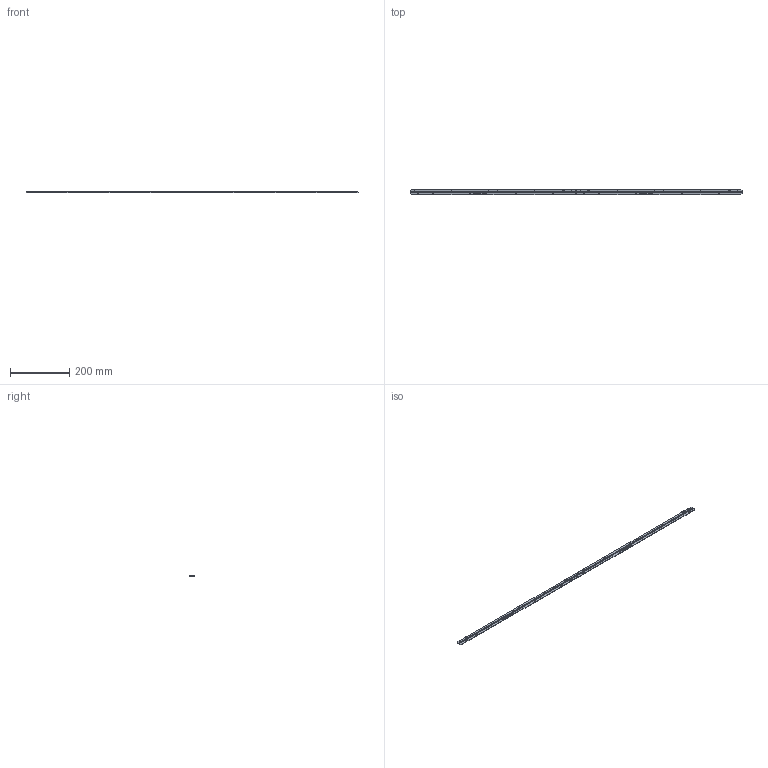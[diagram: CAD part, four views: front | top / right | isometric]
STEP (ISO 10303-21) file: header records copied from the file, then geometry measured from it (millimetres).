
FILE_DESCRIPTION(('Open CASCADE Model'),'2;1');
FILE_NAME('Open CASCADE Shape Model','2025-06-13T11:03:28',('Author'),( 'Open CASCADE'),'Open CASCADE STEP processor 6.8','Open CASCADE 6.8' ,'Unknown');
FILE_SCHEMA(('AUTOMOTIVE_DESIGN { 1 0 10303 214 1 1 1 1 }'));
Products named in the file (1): PCB
Bounding box: 1120 x 20 x 4.3 mm (x, y, z)
Volume: 36789.6 mm3; surface area: 54815.6 mm2
Topology: 223 solids, 223 shells, 3333 faces, 8773 edges, 5830 vertices
Faces by surface type: plane 2716, cylinder 617
Full cylindrical faces by diameter (mm): 0.8 x11
Entity records: 103209 total; most frequent: CARTESIAN_POINT 17985, ORIENTED_EDGE 17546, DIRECTION 16795, EDGE_CURVE 8773, LINE 7387, VECTOR 7387, VERTEX_POINT 5830, AXIS2_PLACEMENT_3D 4704
